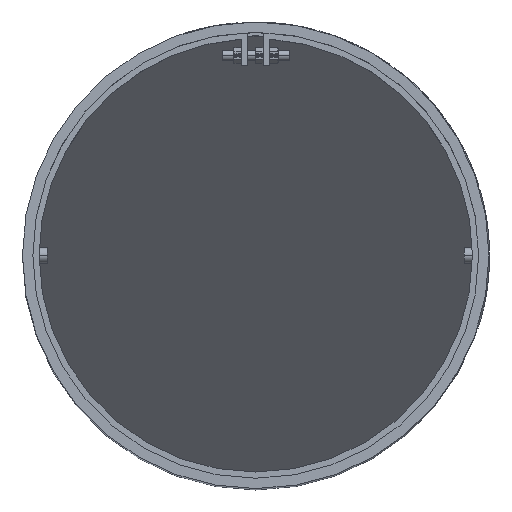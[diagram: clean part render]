
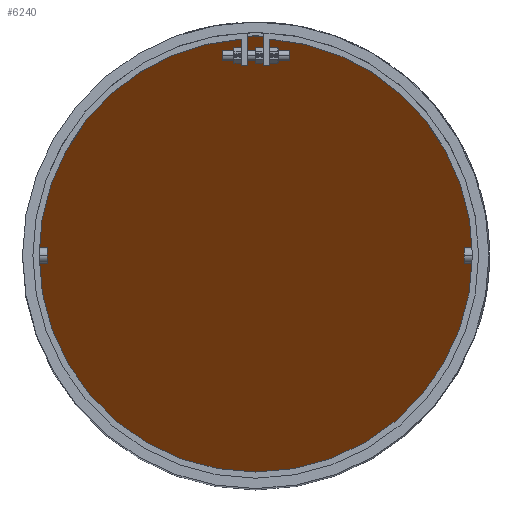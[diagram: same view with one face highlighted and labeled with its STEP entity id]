
A CAD part, top view. The second image highlights one B-rep face of the part: STEP entity #6240.
In plain terms, the highlighted planar face has unit normal (0, -0.707, 0.707).
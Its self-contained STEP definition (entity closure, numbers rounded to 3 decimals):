
#4960 = AXIS2_PLACEMENT_3D ( 'NONE', #64910, #56633, #34676 ) ;
#6240 = ADVANCED_FACE ( 'NONE', ( #39674 ), #50841, .F. ) ;
#10596 = VERTEX_POINT ( 'NONE', #33515 ) ;
#18874 = VERTEX_POINT ( 'NONE', #30669 ) ;
#21468 = ORIENTED_EDGE ( 'NONE', *, *, #78345, .T. ) ;
#23077 = CARTESIAN_POINT ( 'NONE',  ( -212., -424., -27.172 ) ) ;
#30079 = CARTESIAN_POINT ( 'NONE',  ( 212., -424., -27.172 ) ) ;
#30669 = CARTESIAN_POINT ( 'NONE',  ( -212., 0., 396.828 ) ) ;
#33515 = CARTESIAN_POINT ( 'NONE',  ( 212., 0., 396.828 ) ) ;
#34676 = DIRECTION ( 'NONE',  ( 0., 0.707, 0.707 ) ) ;
#36220 = CARTESIAN_POINT ( 'NONE',  ( -212., 424., 820.828 ) ) ;
#36509 =( BOUNDED_CURVE ( )  B_SPLINE_CURVE ( 3, ( #80137, #23077, #30079, #49045 ),
 .UNSPECIFIED., .F., .F. ) 
 B_SPLINE_CURVE_WITH_KNOTS ( ( 4, 4 ),
 ( 4.712, 7.854 ),
 .UNSPECIFIED. ) 
 CURVE ( )  GEOMETRIC_REPRESENTATION_ITEM ( )  RATIONAL_B_SPLINE_CURVE ( ( 1., 0.333, 0.333, 1. ) ) 
 REPRESENTATION_ITEM ( '' )  );
#39674 = FACE_OUTER_BOUND ( 'NONE', #53033, .T. ) ;
#48251 = CARTESIAN_POINT ( 'NONE',  ( 212., 424., 820.828 ) ) ;
#49045 = CARTESIAN_POINT ( 'NONE',  ( 212., 0., 396.828 ) ) ;
#50841 = PLANE ( 'NONE',  #4960 ) ;
#52418 = EDGE_CURVE ( 'NONE', #10596, #18874, #65063, .T. ) ;
#53033 = EDGE_LOOP ( 'NONE', ( #21468, #58025 ) ) ;
#54425 = CARTESIAN_POINT ( 'NONE',  ( 212., 0., 396.828 ) ) ;
#56633 = DIRECTION ( 'NONE',  ( 0., 0.707, -0.707 ) ) ;
#58025 = ORIENTED_EDGE ( 'NONE', *, *, #52418, .T. ) ;
#64910 = CARTESIAN_POINT ( 'NONE',  ( 662.251, -198.414, 198.414 ) ) ;
#65063 =( BOUNDED_CURVE ( )  B_SPLINE_CURVE ( 3, ( #54425, #48251, #36220, #79329 ),
 .UNSPECIFIED., .F., .F. ) 
 B_SPLINE_CURVE_WITH_KNOTS ( ( 4, 4 ),
 ( 1.571, 4.712 ),
 .UNSPECIFIED. ) 
 CURVE ( )  GEOMETRIC_REPRESENTATION_ITEM ( )  RATIONAL_B_SPLINE_CURVE ( ( 1., 0.333, 0.333, 1. ) ) 
 REPRESENTATION_ITEM ( '' )  );
#78345 = EDGE_CURVE ( 'NONE', #18874, #10596, #36509, .T. ) ;
#79329 = CARTESIAN_POINT ( 'NONE',  ( -212., 0., 396.828 ) ) ;
#80137 = CARTESIAN_POINT ( 'NONE',  ( -212., 0., 396.828 ) ) ;
